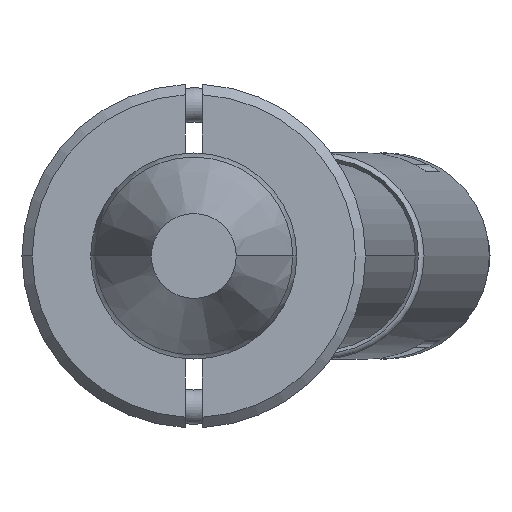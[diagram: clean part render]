
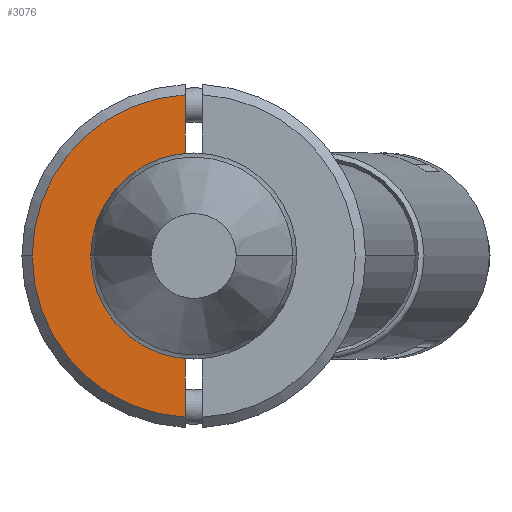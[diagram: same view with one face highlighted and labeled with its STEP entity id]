
A CAD part, front view. The second image highlights one B-rep face of the part: STEP entity #3076.
In plain terms, the highlighted planar face has unit normal (0, -1, 0).
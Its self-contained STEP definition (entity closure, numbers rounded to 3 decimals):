
#409 = AXIS2_PLACEMENT_3D ( 'NONE', #1111, #2294, #927 ) ;
#416 = CIRCLE ( 'NONE', #849, 4.7 ) ;
#534 = DIRECTION ( 'NONE',  ( 0., 0., -1. ) ) ;
#610 = CARTESIAN_POINT ( 'NONE',  ( -5., -6., 0. ) ) ;
#618 = AXIS2_PLACEMENT_3D ( 'NONE', #3459, #2305, #534 ) ;
#698 = EDGE_CURVE ( 'NONE', #3261, #2869, #416, .T. ) ;
#737 = VECTOR ( 'NONE', #3284, 1000. ) ;
#822 = EDGE_LOOP ( 'NONE', ( #3253, #3230, #1149, #3216, #2930 ) ) ;
#849 = AXIS2_PLACEMENT_3D ( 'NONE', #3529, #2068, #3241 ) ;
#875 = PLANE ( 'NONE',  #3608 ) ;
#927 = DIRECTION ( 'NONE',  ( 0., 0., -1. ) ) ;
#956 = LINE ( 'NONE', #3577, #737 ) ;
#1111 = CARTESIAN_POINT ( 'NONE',  ( 0., -6., 0. ) ) ;
#1145 = CIRCLE ( 'NONE', #409, 4.7 ) ;
#1149 = ORIENTED_EDGE ( 'NONE', *, *, #1252, .T. ) ;
#1215 = CIRCLE ( 'NONE', #618, 2.45 ) ;
#1252 = EDGE_CURVE ( 'NONE', #2869, #3679, #1145, .T. ) ;
#1417 = LINE ( 'NONE', #1434, #3321 ) ;
#1434 = CARTESIAN_POINT ( 'NONE',  ( -5., -6., 0.25 ) ) ;
#1990 = CARTESIAN_POINT ( 'NONE',  ( -2.437, -6., 0.25 ) ) ;
#2068 = DIRECTION ( 'NONE',  ( 0., -1., 0. ) ) ;
#2085 = CARTESIAN_POINT ( 'NONE',  ( 4.693, -6., 0.25 ) ) ;
#2224 = EDGE_CURVE ( 'NONE', #3721, #3618, #1215, .T. ) ;
#2294 = DIRECTION ( 'NONE',  ( 0., -1., 0. ) ) ;
#2296 = EDGE_CURVE ( 'NONE', #3261, #3618, #1417, .T. ) ;
#2305 = DIRECTION ( 'NONE',  ( 0., 1., 0. ) ) ;
#2359 = FACE_OUTER_BOUND ( 'NONE', #822, .T. ) ;
#2397 = EDGE_CURVE ( 'NONE', #3721, #3679, #956, .T. ) ;
#2606 = DIRECTION ( 'NONE',  ( 0., -1., 0. ) ) ;
#2628 = CARTESIAN_POINT ( 'NONE',  ( 0., -6., 4.7 ) ) ;
#2637 = DIRECTION ( 'NONE',  ( -1., 0., 0. ) ) ;
#2651 = DIRECTION ( 'NONE',  ( 0., 0., -1. ) ) ;
#2869 = VERTEX_POINT ( 'NONE', #2628 ) ;
#2930 = ORIENTED_EDGE ( 'NONE', *, *, #2224, .T. ) ;
#3076 = ADVANCED_FACE ( 'NONE', ( #2359 ), #875, .T. ) ;
#3216 = ORIENTED_EDGE ( 'NONE', *, *, #2397, .F. ) ;
#3230 = ORIENTED_EDGE ( 'NONE', *, *, #698, .T. ) ;
#3241 = DIRECTION ( 'NONE',  ( 0., 0., -1. ) ) ;
#3253 = ORIENTED_EDGE ( 'NONE', *, *, #2296, .F. ) ;
#3261 = VERTEX_POINT ( 'NONE', #2085 ) ;
#3284 = DIRECTION ( 'NONE',  ( -1., 0., 0. ) ) ;
#3321 = VECTOR ( 'NONE', #2637, 1000. ) ;
#3459 = CARTESIAN_POINT ( 'NONE',  ( 0., -6., 0. ) ) ;
#3529 = CARTESIAN_POINT ( 'NONE',  ( 0., -6., 0. ) ) ;
#3577 = CARTESIAN_POINT ( 'NONE',  ( -5., -6., 0.25 ) ) ;
#3608 = AXIS2_PLACEMENT_3D ( 'NONE', #610, #2606, #2651 ) ;
#3618 = VERTEX_POINT ( 'NONE', #3670 ) ;
#3670 = CARTESIAN_POINT ( 'NONE',  ( 2.437, -6., 0.25 ) ) ;
#3679 = VERTEX_POINT ( 'NONE', #3795 ) ;
#3721 = VERTEX_POINT ( 'NONE', #1990 ) ;
#3795 = CARTESIAN_POINT ( 'NONE',  ( -4.693, -6., 0.25 ) ) ;
